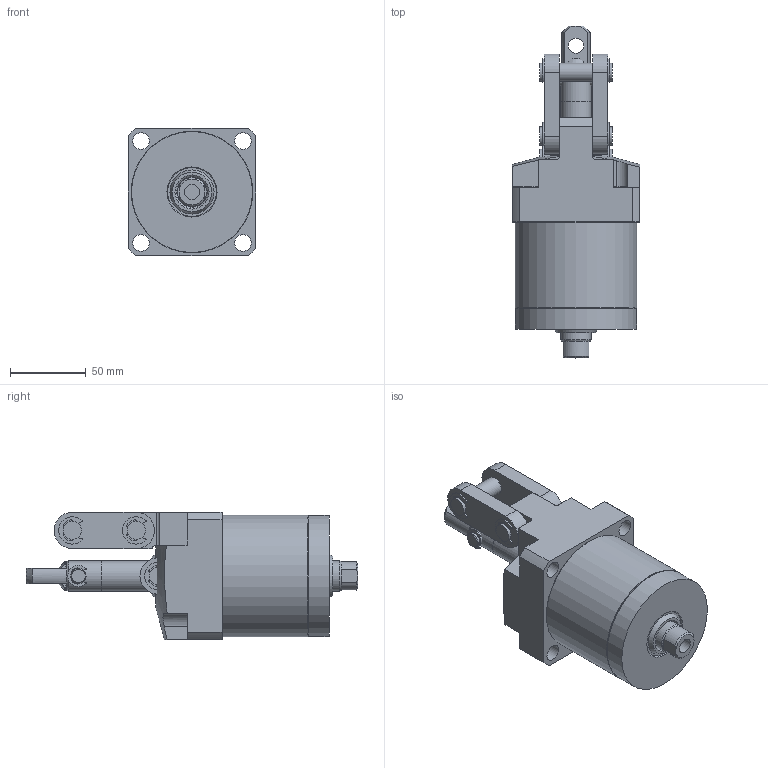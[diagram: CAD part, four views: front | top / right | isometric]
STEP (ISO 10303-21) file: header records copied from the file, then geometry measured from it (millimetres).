
FILE_DESCRIPTION( ( '' ), '1' );
FILE_NAME( 'W:/Catalogue/JL5H/JL5H52-34KLD/JL5H52-34KLD.stp', '2008-05-26T02:13:09', ( '機械事業部産業機器グループ' ), ( '豊和工業株式会社' ), 'XStep 1.0', ' ', ' ' );
FILE_SCHEMA( ( 'CONFIG_CONTROL_DESIGN' ) );
Length unit declared in the file: millimetre
Products named in the file (5): Assem1; 1; 2; 3; 4
Bounding box: 84 x 218.5 x 84 mm (x, y, z)
Volume: 1223594.4 mm3; surface area: 200383.2 mm2
Topology: 8 solids, 12 shells, 568 faces, 1458 edges, 952 vertices
Faces by surface type: plane 284, cylinder 232, cone 48, torus 4
Full cylindrical faces by diameter (mm): 2 x2, 7 x4, 9 x8, 10 x10, 11 x12, 12 x14, 18.5 x2, 20 x8, 22 x4, 27 x4, 32 x8, 52 x4, 79 x4, 79.7 x2, 80 x2
Entity records: 8577 total; most frequent: CARTESIAN_POINT 1585, DIRECTION 1493, ORIENTED_EDGE 1274, EDGE_CURVE 637, AXIS2_PLACEMENT_3D 594, VERTEX_POINT 452, EDGE_LOOP 396, FACE_OUTER_BOUND 330
